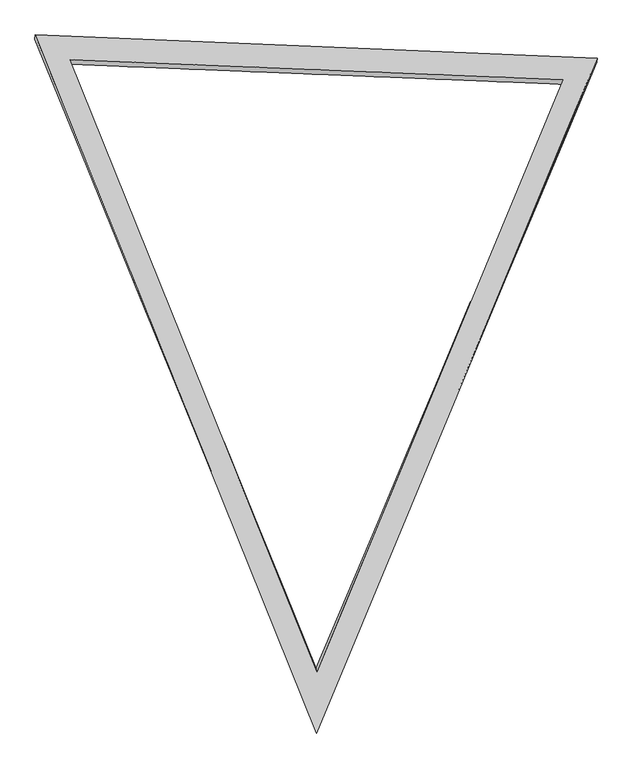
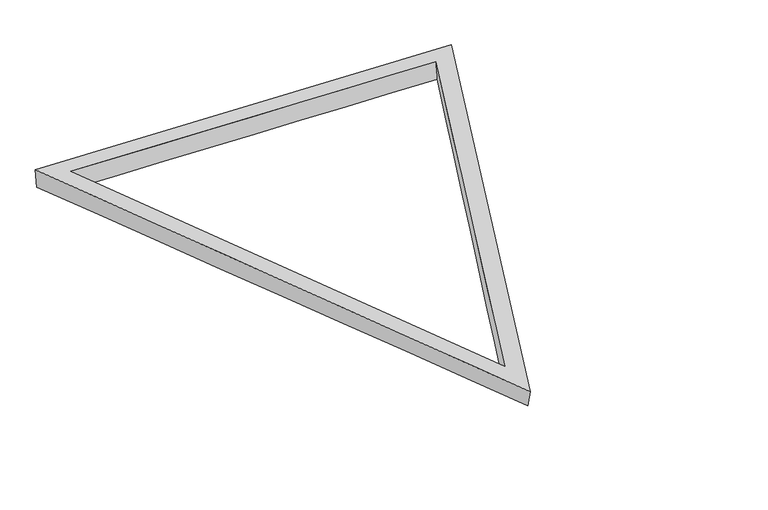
"""IFC4 building model written with IfcOpenShell, lengths in millimetres: plate geometry."""

from ifc_helpers import new_model, si_unit, frame, origin, place, context, project, spatial, source, transform, mapped, element, save
from ifc_brep_helpers import plane_surface, spline_surface, advanced_brep


def plate_ebc1c18c(model_context):
    return source(origin(), model_context, "Body", "AdvancedBrep", [
        advanced_brep(
        [(3941.7157402, 6941.9993795, 0.0), (3942.0252549, 6981.9875003, 199.2271917), (6104.0125337, 1621.8719336, 199.4261443), (6099.1675642, 1654.6111165, 0.0), (8259.8069683, 6803.9585541, 199.6934111), (8256.6193881, 6766.487748, 0.0), (6096.0, 1124.5191292, 0.0), (8557.8353814, 6957.6036121, 0.0), (8559.3557051, 6994.9803385, 199.7270862), (6101.1067416, 1085.8552107, 199.4223222), (3634.1646186, 7157.8772587, 0.0), (3635.7960877, 7197.9864626, 199.195457)],
        [
            (0, 1),
            (1, 2),
            (2, 3),
            (3, 0),
            (2, 4),
            (4, 5),
            (5, 3),
            (0, 5),
            (4, 1),
            (6, 7),
            (7, 8),
            (8, 9),
            (9, 6),
            (7, 10),
            (10, 11),
            (11, 8),
            (9, 11),
            (10, 6),
        ],
        [
            spline_surface(1, 1, [[(3941.7157402, 6941.9993795, 0.0), (6099.1675642, 1654.6111165, 0.0)], [(3942.0252549, 6981.9875003, 199.2271917), (6104.0125337, 1621.8719336, 199.4261443)]], [2, 2], [2, 2], [0.0, 1.0], [0.0, 1.0]),
            spline_surface(1, 1, [[(6099.1675642, 1654.6111165, 0.0), (8256.6193881, 6766.487748, 0.0)], [(6104.0125337, 1621.8719336, 199.4261443), (8259.8069683, 6803.9585541, 199.6934111)]], [2, 2], [2, 2], [0.0, 1.0], [0.0, 1.0]),
            spline_surface(1, 1, [[(8256.6193881, 6766.487748, 0.0), (3941.7157402, 6941.9993795, 0.0)], [(8259.8069683, 6803.9585541, 199.6934111), (3942.0252549, 6981.9875003, 199.2271917)]], [2, 2], [2, 2], [0.0, 1.0], [0.0, 1.0]),
            spline_surface(1, 1, [[(6096.0, 1124.5191292, 0.0), (6101.1067416, 1085.8552107, 199.4223222)], [(8557.8353814, 6957.6036121, 0.0), (8559.3557051, 6994.9803385, 199.7270862)]], [2, 2], [2, 2], [0.0, 1.0], [0.0, 1.0]),
            spline_surface(1, 1, [[(8557.8353814, 6957.6036121, 0.0), (8559.3557051, 6994.9803385, 199.7270862)], [(3634.1646186, 7157.8772587, 0.0), (3635.7960877, 7197.9864626, 199.195457)]], [2, 2], [2, 2], [0.0, 1.0], [0.0, 1.0]),
            spline_surface(1, 1, [[(3634.1646186, 7157.8772587, 0.0), (3635.7960877, 7197.9864626, 199.195457)], [(6096.0, 1124.5191292, 0.0), (6101.1067416, 1085.8552107, 199.4223222)]], [2, 2], [2, 2], [0.0, 1.0], [0.0, 1.0]),
            plane_surface(frame((6098.7528448, 5092.9406706, 199.4482884), z_axis=(-0.00010824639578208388, -6.54366489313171e-06, 0.9999999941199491), x_axis=(0.3740651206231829, -0.9274024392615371, 3.4422590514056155e-05))),
            plane_surface(frame((6096.0, 5080.0, 0.0), z_axis=(0.0, 0.0, -1.0000000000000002), x_axis=(-0.37779704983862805, 0.9258884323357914, 0.0))),
        ],
        [
            (0, [[1, 2, 3, 4]]),
            (1, [[-3, 5, 6, 7]]),
            (2, [[-1, 8, -6, 9]]),
            (3, [[10, 11, 12, 13]]),
            (4, [[-11, 14, 15, 16]]),
            (5, [[-13, 17, -15, 18]]),
            (6, [[-12, -16, -17], [-2, -9, -5]]),
            (7, [[-10, -18, -14], [-4, -7, -8]]),
        ],
    ),
    ])


if __name__ == "__main__":
    model = new_model("IFC4")
    model_context = context("Model", 3, world=origin())
    ifc_project = project(units=[si_unit("LENGTHUNIT", "METRE", prefix="MILLI")], contexts=[model_context])
    site = spatial("IfcSite", under=ifc_project)
    building = spatial("IfcBuilding", under=site)
    placement = place(None, origin())
    plate_shape = plate_ebc1c18c(model_context)
    element("IfcPlate", 1, ObjectType="tn_cpanel_patbase_triangle_flat_seamless_frame_02_cylinder : tn_triangle_seamless_frame_t8\"xh8\"", at=placement, inside=building, context=model_context, shape_type="MappedRepresentation", body=[
        mapped(plate_shape, transform((0.0, 0.0, 0.0), x_axis=(1.0, 0.0, 0.0), y_axis=(0.0, 1.0, 0.0), z_axis=(0.0, 0.0, 1.0))),
    ])
    save(model, "model.ifc")
